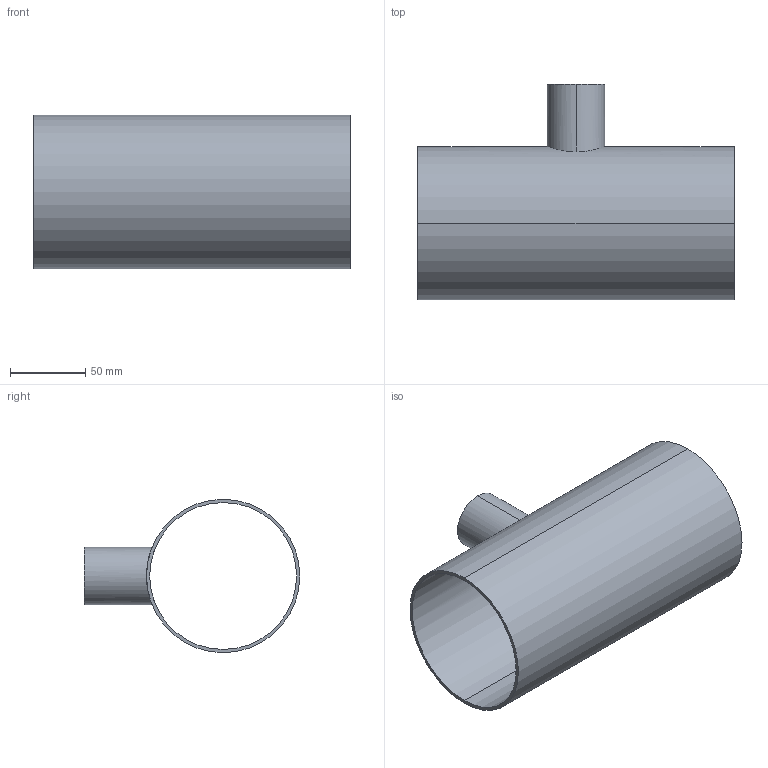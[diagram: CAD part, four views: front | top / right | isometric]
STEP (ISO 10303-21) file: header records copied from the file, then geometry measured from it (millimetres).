
FILE_DESCRIPTION (( 'STEP AP214' ), '1' );
FILE_NAME ('TE7RWWW6L4.0x1.5-...STEP', '2016-05-24T04:33:27', ( 'eran' ), ( '' ), 'SwSTEP 2.0', 'SolidWorks 2016', '' );
FILE_SCHEMA (( 'AUTOMOTIVE_DESIGN' ));
Length unit declared in the file: millimetre
Products named in the file (1): TE7RWWW6L4.0x1.5-..
Bounding box: 209.6 x 142.9 x 101.6 mm (x, y, z)
Volume: 144311.8 mm3; surface area: 140486.8 mm2
Topology: 1 solids, 1 shells, 11 faces, 24 edges, 16 vertices
Faces by surface type: cylinder 8, plane 3
Entity records: 548 total; most frequent: CARTESIAN_POINT 256, DIRECTION 56, ORIENTED_EDGE 48, EDGE_CURVE 24, AXIS2_PLACEMENT_3D 24, VERTEX_POINT 16, EDGE_LOOP 16, CIRCLE 12
